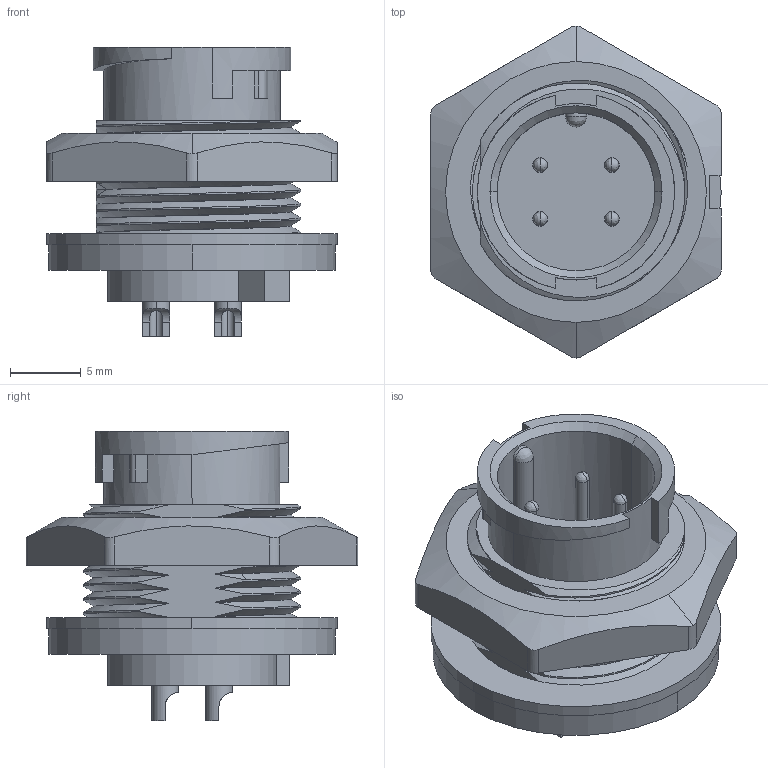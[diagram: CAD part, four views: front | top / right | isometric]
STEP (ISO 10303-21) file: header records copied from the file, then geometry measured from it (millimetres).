
FILE_DESCRIPTION (( 'STEP AP203' ), '1' );
FILE_NAME ('869-04B-103R001.STEP', '2024-06-14T18:26:40', ( '' ), ( '' ), 'SwSTEP 2.0', 'SolidWorks 2020', '' );
FILE_SCHEMA (( 'CONFIG_CONTROL_DESIGN' ));
Length unit declared in the file: millimetre
Products named in the file (1): 869-04B-103R001
Bounding box: 20.6 x 23.54 x 20.5 mm (x, y, z)
Volume: 2625.4 mm3; surface area: 3513.1 mm2
Topology: 2 solids, 2 shells, 239 faces, 624 edges, 381 vertices
Faces by surface type: cylinder 91, plane 59, bspline 52, cone 37
Entity records: 13671 total; most frequent: CARTESIAN_POINT 8318, ORIENTED_EDGE 1196, DIRECTION 936, EDGE_CURVE 598, VERTEX_POINT 381, AXIS2_PLACEMENT_3D 362, EDGE_LOOP 259, ADVANCED_FACE 239
